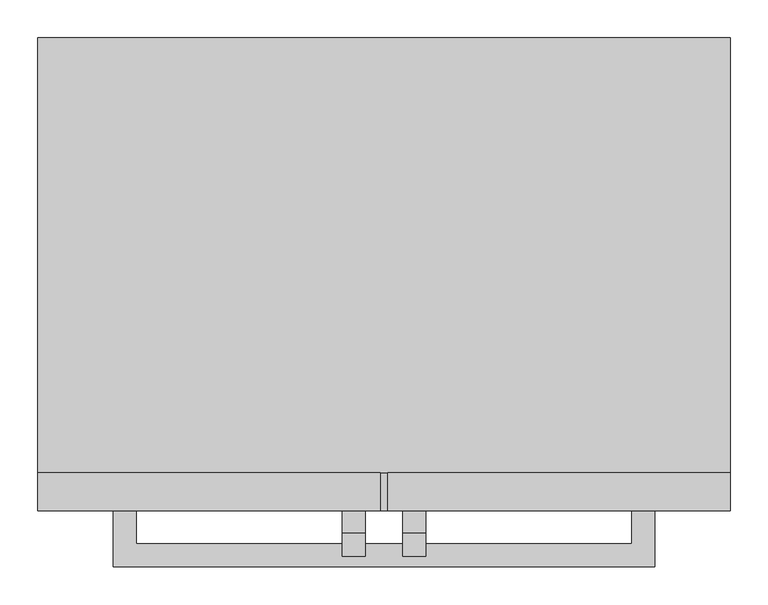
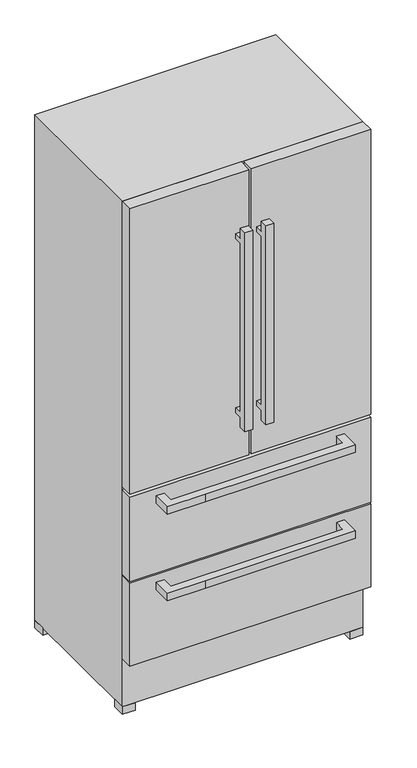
"""IFC4 building model written with IfcOpenShell, lengths in millimetres: proxy geometry, ECBN 6256 : ECBN 6256."""

import ifcopenshell
import ifcopenshell.guid

model = None  # the IFC model being written
_history = None  # IfcOwnerHistory: only IFC2X3 demands one
_inside = {}  # id of a spatial element -> (the spatial element, [elements in it])
_under = {}  # id of a project, library or spatial element -> (it, [spatial elements below it])
_declared = {}  # id of a project -> (the project, [libraries it declares])
_typed = {}  # id of a type object -> (the type object, [elements of that type])
_made_of = {}  # id of a material, layer set ... -> (it, [elements and type objects made of it])


def new_model(schema):
    """Start an empty IFC model of exactly this schema.

    Asked for "IFC4X3", IfcOpenShell would pick the latest addendum, in which some entities
    have other attributes; the version numbers below select the first issue.
    IFC2X3 requires an IfcOwnerHistory on every rooted entity: one is made here for all.
    """
    global model, _history
    if schema == "IFC4X3":
        model = ifcopenshell.file(schema_version=(4, 3, 0, 0))
    else:
        model = ifcopenshell.file(schema=schema)
    _inside.clear()
    _under.clear()
    _declared.clear()
    _typed.clear()
    _made_of.clear()
    _history = None
    if model.schema == "IFC2X3":
        org = make("IfcOrganization", Name="unknown")
        user = make(
            "IfcPersonAndOrganization",
            ThePerson=make("IfcPerson", FamilyName="unknown"),
            TheOrganization=org,
        )
        app = make(
            "IfcApplication",
            ApplicationDeveloper=org,
            Version="unknown",
            ApplicationFullName="unknown",
            ApplicationIdentifier="unknown",
        )
        _history = make(
            "IfcOwnerHistory",
            OwningUser=user,
            OwningApplication=app,
            ChangeAction="ADDED",
            CreationDate=0,
        )
    return model


def make(cls, **values):
    """One entity of the class cls with the attributes given. An attribute that is None is left unset."""
    return model.create_entity(
        cls, **{name: value for name, value in values.items() if value is not None}
    )


def rooted(cls, **values):
    """An entity with a GlobalId (a new one), such as an element, a storey or a relation."""
    return make(cls, GlobalId=ifcopenshell.guid.new(), OwnerHistory=_history, **values)


def si_unit(unit_type, name, prefix=None):
    """IfcSIUnit, for example si_unit("LENGTHUNIT", "METRE", prefix="MILLI")."""
    return make("IfcSIUnit", UnitType=unit_type, Prefix=prefix, Name=name)


def assignment(units):
    """IfcUnitAssignment: the units of a project."""
    return None if units is None else make("IfcUnitAssignment", Units=units)


def point(xyz):
    """IfcCartesianPoint."""
    return None if xyz is None else make("IfcCartesianPoint", Coordinates=xyz)


def direction(xyz):
    """IfcDirection."""
    return None if xyz is None else make("IfcDirection", DirectionRatios=xyz)


def frame(location, z_axis=None, x_axis=None):
    """IfcAxis2Placement3D, a coordinate frame: its origin and axes. An axis left out is left unset."""
    return make(
        "IfcAxis2Placement3D",
        Location=point(location),
        Axis=direction(z_axis),
        RefDirection=direction(x_axis),
    )


def origin():
    """The frame at (0, 0, 0) with its axes left unset."""
    return frame((0.0, 0.0, 0.0))


def place(relative_to, where):
    """IfcLocalPlacement: puts the frame where relative to a parent placement (None: the world)."""
    return make(
        "IfcLocalPlacement", PlacementRelTo=relative_to, RelativePlacement=where
    )


def context(
    kind, dimensions, precision=None, world=None, true_north=None, identifier=None
):
    """IfcGeometricRepresentationContext, for example the 3D "Model" context."""
    return make(
        "IfcGeometricRepresentationContext",
        ContextIdentifier=identifier,
        ContextType=kind,
        CoordinateSpaceDimension=dimensions,
        Precision=precision,
        WorldCoordinateSystem=world,
        TrueNorth=true_north,
    )


def project(units=None, contexts=None):
    """IfcProject with its units and contexts."""
    return rooted(
        "IfcProject",
        Name="project",
        RepresentationContexts=contexts,
        UnitsInContext=assignment(units),
    )


def spatial(cls, under=None, at=None, **own):
    """A site, building, storey or space (cls), placed at a placement, below another one or the project."""
    s = rooted(cls, ObjectPlacement=at, **own)
    if under is not None:
        _under.setdefault(under.id(), (under, []))[1].append(s)
    return s


def polyline(points):
    """IfcPolyline through the points."""
    return make("IfcPolyline", Points=[point(p) for p in points])


def outline(outer, holes=None, kind="AREA"):
    """IfcArbitraryClosedProfileDef: a profile drawn as a closed curve; with holes, ...WithVoids."""
    if holes is None:
        return make("IfcArbitraryClosedProfileDef", ProfileType=kind, OuterCurve=outer)
    return make(
        "IfcArbitraryProfileDefWithVoids",
        ProfileType=kind,
        OuterCurve=outer,
        InnerCurves=holes,
    )


def extrude(swept, where, along, depth):
    """IfcExtrudedAreaSolid: the profile swept, set in the frame where, extruded along a direction by depth."""
    return make(
        "IfcExtrudedAreaSolid",
        SweptArea=swept,
        Position=where,
        ExtrudedDirection=direction(along),
        Depth=depth,
    )


def shape(context_of_items, identifier, shape_type, items):
    """IfcShapeRepresentation: the items that make up one representation, for example the "Body"."""
    return make(
        "IfcShapeRepresentation",
        ContextOfItems=context_of_items,
        RepresentationIdentifier=identifier,
        RepresentationType=shape_type,
        Items=items,
    )


def source(mapping_origin, context_of_items, identifier, shape_type, items):
    """IfcRepresentationMap: a shape defined once, which mapped items show again and again."""
    return make(
        "IfcRepresentationMap",
        MappingOrigin=mapping_origin,
        MappedRepresentation=shape(context_of_items, identifier, shape_type, items),
    )


def transform(
    local_origin,
    x_axis=None,
    y_axis=None,
    z_axis=None,
    scale=None,
    scale2=None,
    scale3=None,
    uniform=True,
):
    """IfcCartesianTransformationOperator3D, or its non-uniform kind. x_axis, y_axis, z_axis: its Axis1, 2, 3."""
    if uniform:
        return make(
            "IfcCartesianTransformationOperator3D",
            Axis1=direction(x_axis),
            Axis2=direction(y_axis),
            LocalOrigin=point(local_origin),
            Scale=scale,
            Axis3=direction(z_axis),
        )
    return make(
        "IfcCartesianTransformationOperator3DnonUniform",
        Axis1=direction(x_axis),
        Axis2=direction(y_axis),
        LocalOrigin=point(local_origin),
        Scale=scale,
        Axis3=direction(z_axis),
        Scale2=scale2,
        Scale3=scale3,
    )


def mapped(mapping_source, mapping_target):
    """IfcMappedItem: shows the shape of a source again, moved by a transform."""
    return make(
        "IfcMappedItem", MappingSource=mapping_source, MappingTarget=mapping_target
    )


def made_of(thing, what):
    """Note that an element or type object is made of a material, layer set ...; save() writes the relation."""
    if what is not None:
        _made_of.setdefault(what.id(), (what, []))[1].append(thing)
    return thing


def element(
    cls,
    number,
    at=None,
    inside=None,
    cuts=None,
    type_object=None,
    material=None,
    context=None,
    identifier="Body",
    shape_type=None,
    held_by="IfcProductDefinitionShape",
    body=None,
    shapes=None,
    **own,
):
    """One element of the class cls, such as IfcWall. Its Tag is "e" and its number.

    at: its placement. inside: the storey or other place that contains it. cuts: it is an
    opening in that element (IfcRelVoidsElement). A single representation is given by context,
    identifier, shape_type and body (its items); several are given by shapes. held_by: the class
    of the entity that holds the representations. save() writes the other relations.
    """
    e = rooted(cls, Tag="e%d" % number, ObjectPlacement=at, **own)
    if body is not None:
        shapes = [shape(context, identifier, shape_type, body)]
    if shapes is not None:
        e.Representation = make(held_by, Representations=shapes)
    if inside is not None:
        _inside.setdefault(inside.id(), (inside, []))[1].append(e)
    if cuts is not None:
        rooted(
            "IfcRelVoidsElement", RelatingBuildingElement=cuts, RelatedOpeningElement=e
        )
    if type_object is not None:
        _typed.setdefault(type_object.id(), (type_object, []))[1].append(e)
    return made_of(e, material)


def aggregate(whole, parts):
    """IfcRelAggregates: a whole, such as a stair, and the parts it consists of."""
    return rooted("IfcRelAggregates", RelatingObject=whole, RelatedObjects=parts)


def save(model, path):
    """Write the relations noted so far, then the file.

    IfcRelAggregates (storeys below a building ...), IfcRelContainedInSpatialStructure (elements
    in a storey), IfcRelDefinesByType, IfcRelAssociatesMaterial and IfcRelDeclares: one each for
    every whole, place, type object, material and project.
    """
    for whole, parts in _under.values():
        aggregate(whole, parts)
    for where, things in _inside.values():
        rooted(
            "IfcRelContainedInSpatialStructure",
            RelatedElements=things,
            RelatingStructure=where,
        )
    for kind, things in _typed.values():
        rooted("IfcRelDefinesByType", RelatedObjects=things, RelatingType=kind)
    for what, things in _made_of.values():
        rooted("IfcRelAssociatesMaterial", RelatedObjects=things, RelatingMaterial=what)
    for by, libraries in _declared.values():
        rooted("IfcRelDeclares", RelatingContext=by, RelatedDefinitions=libraries)
    model.write(path)


def specialty_equipment_ea005563(model_context):
    return source(origin(), model_context, "Body", "SweptSolid", [
        extrude(outline(polyline([(-684.8345306, 726.8132517), (-654.8345306, 726.8132517), (-654.8345306, 706.8132517), (-684.8345306, 706.8132517), (-684.8345306, 26.8132517), (-654.8345306, 26.8132517), (-654.8345306, 6.8132517), (-684.8345306, 6.8132517), (-684.8345306, -33.1867483), (-714.8345306, -33.1867483), (-714.8345306, 766.8132517), (-684.8345306, 766.8132517), (-684.8345306, 726.8132517)])), frame((-597.5, 0.0, 0.0), z_axis=(1.0, 0.0, 0.0), x_axis=(0.0, 1.0, 0.0)), (0.0, 0.0, 1.0), 30.0),
        extrude(outline(polyline([(-547.5, -654.8345306), (-1000.0, -654.8345306), (-1000.0, -604.8345306), (-547.5, -604.8345306), (-547.5, -654.8345306)])), frame((0.0, 0.0, -179.1867483), z_axis=(0.0, 0.0, 1.0), x_axis=(1.0, 0.0, 0.0)), (0.0, 0.0, 1.0), 1146.0),
        extrude(outline(polyline([(-900.0, -728.4695177), (-900.0, -654.8345306), (-870.0, -654.8345306), (-870.0, -698.4695177), (-215.0, -698.4695177), (-215.0, -654.8345306), (-185.0, -654.8345306), (-185.0, -728.4695177), (-755.7952617, -728.4695177), (-900.0, -728.4695177)])), frame((0.0, 0.0, -598.1867483), z_axis=(0.0, 0.0, 1.0), x_axis=(1.0, 0.0, 0.0)), (0.0, 0.0, 1.0), 30.0),
        extrude(outline(polyline([(-900.0, -728.4695177), (-900.0, -654.8345306), (-870.0, -654.8345306), (-870.0, -698.4695177), (-215.0, -698.4695177), (-215.0, -654.8345306), (-185.0, -654.8345306), (-185.0, -728.4695177), (-755.7952617, -728.4695177), (-900.0, -728.4695177)])), frame((0.0, 0.0, -251.1867483), z_axis=(0.0, 0.0, 1.0), x_axis=(1.0, 0.0, 0.0)), (0.0, 0.0, 1.0), 30.0),
        extrude(outline(polyline([(-85.0, -654.8345306), (-1000.0, -654.8345306), (-1000.0, -604.8345306), (-85.0, -604.8345306), (-85.0, -654.8345306)])), frame((0.0, 0.0, -872.1867483), z_axis=(0.0, 0.0, 1.0), x_axis=(1.0, 0.0, 0.0)), (0.0, 0.0, 1.0), 334.0),
        extrude(outline(polyline([(-85.0, -654.8345306), (-1000.0, -654.8345306), (-1000.0, -604.8345306), (-85.0, -604.8345306), (-85.0, -654.8345306)])), frame((0.0, 0.0, -532.1867483), z_axis=(0.0, 0.0, 1.0), x_axis=(1.0, 0.0, 0.0)), (0.0, 0.0, 1.0), 341.0),
        extrude(outline(polyline([(-85.0, -554.8345306), (-85.0, -604.8345306), (-135.0, -604.8345306), (-135.0, -554.8345306), (-85.0, -554.8345306)])), frame((0.0, 0.0, -1095.1867483), z_axis=(0.0, 0.0, 1.0), x_axis=(1.0, 0.0, 0.0)), (0.0, 0.0, 1.0), 30.0),
        extrude(outline(polyline([(-85.0, -29.8345306), (-85.0, -79.8345306), (-135.0, -79.8345306), (-135.0, -29.8345306), (-85.0, -29.8345306)])), frame((0.0, 0.0, -1095.1867483), z_axis=(0.0, 0.0, 1.0), x_axis=(1.0, 0.0, 0.0)), (0.0, 0.0, 1.0), 30.0),
        extrude(outline(polyline([(-950.0, -29.8345306), (-950.0, -79.8345306), (-1000.0, -79.8345306), (-1000.0, -29.8345306), (-950.0, -29.8345306)])), frame((0.0, 0.0, -1095.1867483), z_axis=(0.0, 0.0, 1.0), x_axis=(1.0, 0.0, 0.0)), (0.0, 0.0, 1.0), 30.0),
        extrude(outline(polyline([(-950.0, -554.8345306), (-950.0, -604.8345306), (-1000.0, -604.8345306), (-1000.0, -554.8345306), (-950.0, -554.8345306)])), frame((0.0, 0.0, -1095.1867483), z_axis=(0.0, 0.0, 1.0), x_axis=(1.0, 0.0, 0.0)), (0.0, 0.0, 1.0), 30.0),
        extrude(outline(polyline([(-684.8345306, 726.8132517), (-654.8345306, 726.8132517), (-654.8345306, 706.8132517), (-684.8345306, 706.8132517), (-684.8345306, 26.8132517), (-654.8345306, 26.8132517), (-654.8345306, 6.8132517), (-684.8345306, 6.8132517), (-684.8345306, -33.1867483), (-714.8345306, -33.1867483), (-714.8345306, 766.8132517), (-684.8345306, 766.8132517), (-684.8345306, 726.8132517)])), frame((-517.5, 0.0, 0.0), z_axis=(1.0, 0.0, 0.0), x_axis=(0.0, 1.0, 0.0)), (0.0, 0.0, 1.0), 30.0),
        extrude(outline(polyline([(-85.0, -654.8345306), (-537.5, -654.8345306), (-537.5, -604.8345306), (-85.0, -604.8345306), (-85.0, -654.8345306)])), frame((0.0, 0.0, -179.1867483), z_axis=(0.0, 0.0, 1.0), x_axis=(1.0, 0.0, 0.0)), (0.0, 0.0, 1.0), 1146.0),
        extrude(outline(polyline([(-85.0, -604.8345306), (-1000.0, -604.8345306), (-1000.0, -29.8345306), (-85.0, -29.8345306), (-85.0, -604.8345306)])), frame((0.0, 0.0, -1065.1867483), z_axis=(0.0, 0.0, 1.0), x_axis=(1.0, 0.0, 0.0)), (0.0, 0.0, 1.0), 2032.0),
    ])


if __name__ == "__main__":
    model = new_model("IFC4")
    model_context = context("Model", 3, world=origin())
    ifc_project = project(units=[si_unit("LENGTHUNIT", "METRE", prefix="MILLI")], contexts=[model_context])
    site = spatial("IfcSite", under=ifc_project)
    building = spatial("IfcBuilding", under=site)
    placement = place(None, origin())
    specialty_equipment_shape = specialty_equipment_ea005563(model_context)
    element("IfcBuildingElementProxy", 1, Name="ECBN 6256 : ECBN 6256", ObjectType="ECBN 6256 : ECBN 6256", at=placement, inside=building, context=model_context, shape_type="MappedRepresentation", body=[
        mapped(specialty_equipment_shape, transform((0.0, 0.0, 0.0), x_axis=(1.0, 0.0, 0.0), y_axis=(0.0, 1.0, 0.0), z_axis=(0.0, 0.0, 1.0))),
    ])
    save(model, "model.ifc")
